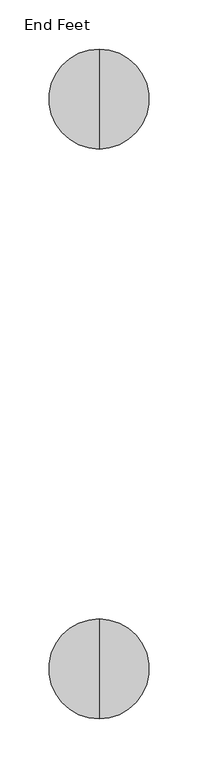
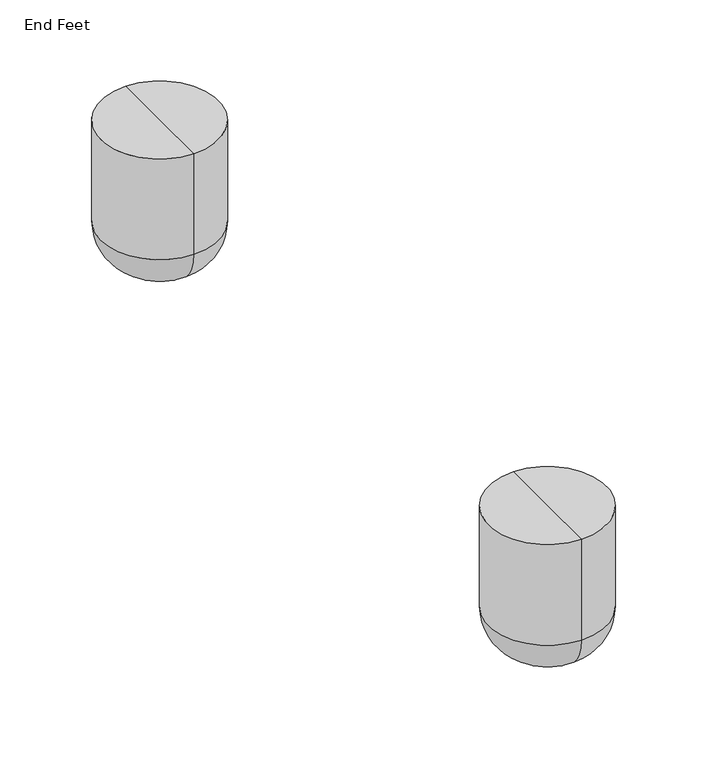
"""IFC4 building model written with IfcOpenShell, lengths in millimetres: furniture geometry, Coalesse_AM_Ensemble_Planter_EndFeet : End Feet."""

from ifc_helpers import new_model, si_unit, point, frame, origin, place, context, project, spatial, circle_curve, ellipse_curve, trimmed, source, transform, mapped, element, save
from ifc_brep_helpers import plane_surface, cylinder_surface, revolved_surface, advanced_brep


def end_feet_a7b0973b(model_context):
    return source(origin(), model_context, "Body", "AdvancedBrep", [
        advanced_brep(
        [(1.939512, -747.4877706, 130.0907271), (1.939512, -696.5184037, 130.0907271), (1.939512, -645.5490367, 130.0907271), (1.939512, -747.4877706, 38.1), (1.939512, -645.5490367, 38.1), (1.939512, -709.3877706, 0.0), (1.939512, -683.6490367, 0.0), (1.939512, -696.5184037, 0.0)],
        [
            (0, 1),
            (1, 2),
            (2, 0, circle_curve(frame((1.939512, -696.5184037, 130.0907271), z_axis=(0.0, 0.0, 1.0), x_axis=(0.0, 1.0, 0.0)), 50.969367)),
            (0, 2, circle_curve(frame((1.939512, -696.5184037, 130.0907271), z_axis=(0.0, 0.0, 1.0), x_axis=(0.0, 1.0, 0.0)), 50.969367)),
            (3, 0),
            (2, 4),
            (4, 3, circle_curve(frame((1.939512, -696.5184037, 38.1), z_axis=(0.0, 0.0, 1.0), x_axis=(0.0, 1.0, 0.0)), 50.969367)),
            (3, 4, circle_curve(frame((1.939512, -696.5184037, 38.1), z_axis=(0.0, 0.0, 1.0), x_axis=(0.0, 1.0, 0.0)), 50.969367)),
            (5, 3, circle_curve(frame((1.939512, -709.3877706, 38.1), z_axis=(-1.0, 0.0, 0.0), x_axis=(0.0, -1.0, 0.0)), 38.1)),
            (4, 6, circle_curve(frame((1.939512, -683.6490367, 38.1), z_axis=(-1.0, 0.0, 0.0), x_axis=(0.0, 1.0, 0.0)), 38.1)),
            (6, 5, circle_curve(frame((1.939512, -696.5184037, 0.0), z_axis=(0.0, 0.0, 1.0), x_axis=(0.0, 1.0, 0.0)), 12.869367)),
            (5, 6, circle_curve(frame((1.939512, -696.5184037, 0.0), z_axis=(0.0, 0.0, 1.0), x_axis=(0.0, 1.0, 0.0)), 12.869367)),
            (7, 5),
            (6, 7),
        ],
        [
            plane_surface(frame((1.939512, -696.5184037, 130.0907271), z_axis=(0.0, 0.0, 1.0), x_axis=(0.0, 1.0, 0.0))),
            cylinder_surface(frame((1.939512, -696.5184037, 130.0907271), z_axis=(0.0, 0.0, -1.0), x_axis=(0.0, 1.0, 0.0)), 50.969367),
            revolved_surface(trimmed(ellipse_curve(frame((1.939512, -683.6490367, 38.1), z_axis=(-1.0, 0.0, 0.0), x_axis=(0.0, 1.0, 0.0)), 38.1, 38.1), [point((1.939512, -645.5490367, 38.1))], [point((1.939512, -683.6490367, 0.0))], True, "CARTESIAN"), (1.939512, -696.5184037, 130.0907271), (0.0, 0.0, -1.0)),
            plane_surface(frame((1.939512, -696.5184037, 0.0), z_axis=(0.0, 0.0, -1.0), x_axis=(0.0, 1.0, 0.0))),
        ],
        [
            (0, [[1, 2, 3]]),
            (0, [[-2, -1, 4]]),
            (1, [[5, -3, 6, 7]]),
            (1, [[-6, -4, -5, 8]]),
            (2, [[9, -7, 10, 11]]),
            (2, [[-10, -8, -9, 12]]),
            (3, [[13, -11, 14]]),
            (3, [[-14, -12, -13]]),
        ],
    ),
        advanced_brep(
        [(1.939512, -166.4627706, 130.0907271), (1.939512, -115.4934037, 130.0907271), (1.939512, -64.5240367, 130.0907271), (1.939512, -166.4627706, 38.1), (1.939512, -64.5240367, 38.1), (1.939512, -128.3627706, 0.0), (1.939512, -102.6240367, 0.0), (1.939512, -115.4934037, 0.0)],
        [
            (0, 1),
            (1, 2),
            (2, 0, circle_curve(frame((1.939512, -115.4934037, 130.0907271), z_axis=(0.0, 0.0, 1.0), x_axis=(0.0, 1.0, 0.0)), 50.969367)),
            (0, 2, circle_curve(frame((1.939512, -115.4934037, 130.0907271), z_axis=(0.0, 0.0, 1.0), x_axis=(0.0, 1.0, 0.0)), 50.969367)),
            (3, 0),
            (2, 4),
            (4, 3, circle_curve(frame((1.939512, -115.4934037, 38.1), z_axis=(0.0, 0.0, 1.0), x_axis=(0.0, 1.0, 0.0)), 50.969367)),
            (3, 4, circle_curve(frame((1.939512, -115.4934037, 38.1), z_axis=(0.0, 0.0, 1.0), x_axis=(0.0, 1.0, 0.0)), 50.969367)),
            (5, 3, circle_curve(frame((1.939512, -128.3627706, 38.1), z_axis=(-1.0, 0.0, 0.0), x_axis=(0.0, -1.0, 0.0)), 38.1)),
            (4, 6, circle_curve(frame((1.939512, -102.6240367, 38.1), z_axis=(-1.0, 0.0, 0.0), x_axis=(0.0, 1.0, 0.0)), 38.1)),
            (6, 5, circle_curve(frame((1.939512, -115.4934037, 0.0), z_axis=(0.0, 0.0, 1.0), x_axis=(0.0, 1.0, 0.0)), 12.869367)),
            (5, 6, circle_curve(frame((1.939512, -115.4934037, 0.0), z_axis=(0.0, 0.0, 1.0), x_axis=(0.0, 1.0, 0.0)), 12.869367)),
            (7, 5),
            (6, 7),
        ],
        [
            plane_surface(frame((1.939512, -115.4934037, 130.0907271), z_axis=(0.0, 0.0, 1.0), x_axis=(0.0, 1.0, 0.0))),
            cylinder_surface(frame((1.939512, -115.4934037, 130.0907271), z_axis=(0.0, 0.0, -1.0), x_axis=(0.0, 1.0, 0.0)), 50.969367),
            revolved_surface(trimmed(ellipse_curve(frame((1.939512, -102.6240367, 38.1), z_axis=(-1.0, 0.0, 0.0), x_axis=(0.0, 1.0, 0.0)), 38.1, 38.1), [point((1.939512, -64.5240367, 38.1))], [point((1.939512, -102.6240367, 0.0))], True, "CARTESIAN"), (1.939512, -115.4934037, 130.0907271), (0.0, 0.0, -1.0)),
            plane_surface(frame((1.939512, -115.4934037, 0.0), z_axis=(0.0, 0.0, -1.0), x_axis=(0.0, 1.0, 0.0))),
        ],
        [
            (0, [[1, 2, 3]]),
            (0, [[-2, -1, 4]]),
            (1, [[5, -3, 6, 7]]),
            (1, [[-6, -4, -5, 8]]),
            (2, [[9, -7, 10, 11]]),
            (2, [[-10, -8, -9, 12]]),
            (3, [[13, -11, 14]]),
            (3, [[-14, -12, -13]]),
        ],
    ),
    ])


if __name__ == "__main__":
    model = new_model("IFC4")
    model_context = context("Model", 3, world=origin())
    ifc_project = project(units=[si_unit("LENGTHUNIT", "METRE", prefix="MILLI")], contexts=[model_context])
    site = spatial("IfcSite", under=ifc_project)
    building = spatial("IfcBuilding", under=site)
    placement = place(None, origin())
    end_feet_shape = end_feet_a7b0973b(model_context)
    element("IfcFurniture", 1, ObjectType="Coalesse_AM_Ensemble_Planter_EndFeet : End Feet", at=placement, inside=building, context=model_context, shape_type="MappedRepresentation", body=[
        mapped(end_feet_shape, transform((0.0, 0.0, 0.0), x_axis=(1.0, 0.0, 0.0), y_axis=(0.0, 1.0, 0.0), z_axis=(0.0, 0.0, 1.0))),
    ])
    save(model, "model.ifc")
